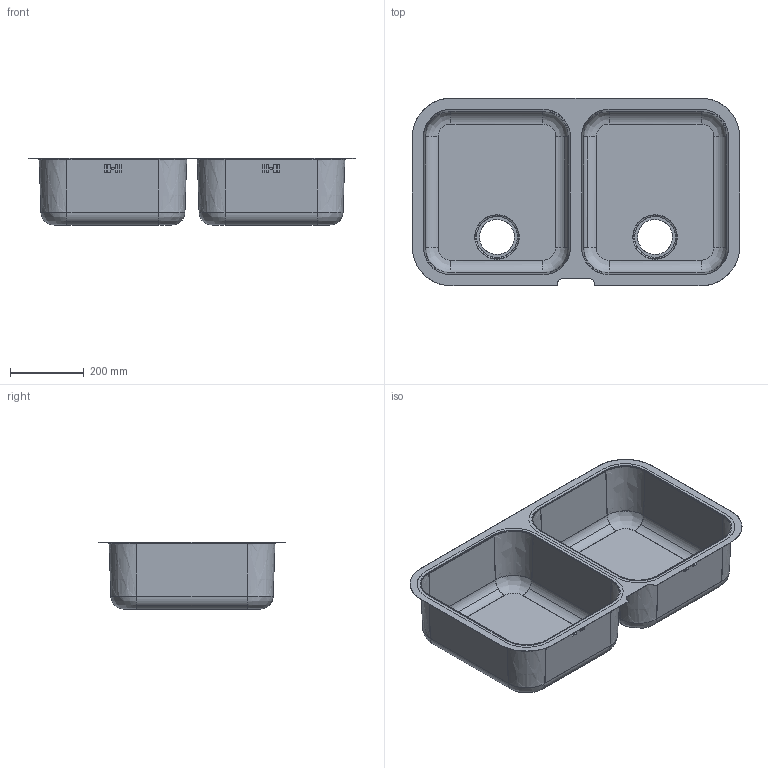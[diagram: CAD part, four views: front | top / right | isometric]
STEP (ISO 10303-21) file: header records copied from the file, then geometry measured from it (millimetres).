
FILE_DESCRIPTION(('CATIA V5 STEP Exchange'),'2;1');
FILE_NAME('\\sr02\Apell\Disegni\DISEGNI\LAVELLI\ALBA\Assiemi\UM4545\UM4545.stp','2017-12-18T09:47:40+00:00',('none'),('none'),'CATIA Version 5-6 Release 2014','CATIA V5 STEP AP203','none');
FILE_SCHEMA(('CONFIG_CONTROL_DESIGN'));
Length unit declared in the file: millimetre
Products named in the file (1): UM4545
Bounding box: 890 x 510 x 183.6 mm (x, y, z)
Volume: 685971.7 mm3; surface area: 1915515.4 mm2
Topology: 3 solids, 3 shells, 284 faces, 730 edges, 460 vertices
Faces by surface type: cylinder 88, plane 84, bspline 72, extrusion 40
Entity records: 20307 total; most frequent: CARTESIAN_POINT 14269, ORIENTED_EDGE 1460, DIRECTION 765, EDGE_CURVE 730, VERTEX_POINT 460, B_SPLINE_CURVE_WITH_KNOTS 389, VECTOR 376, LINE 336
